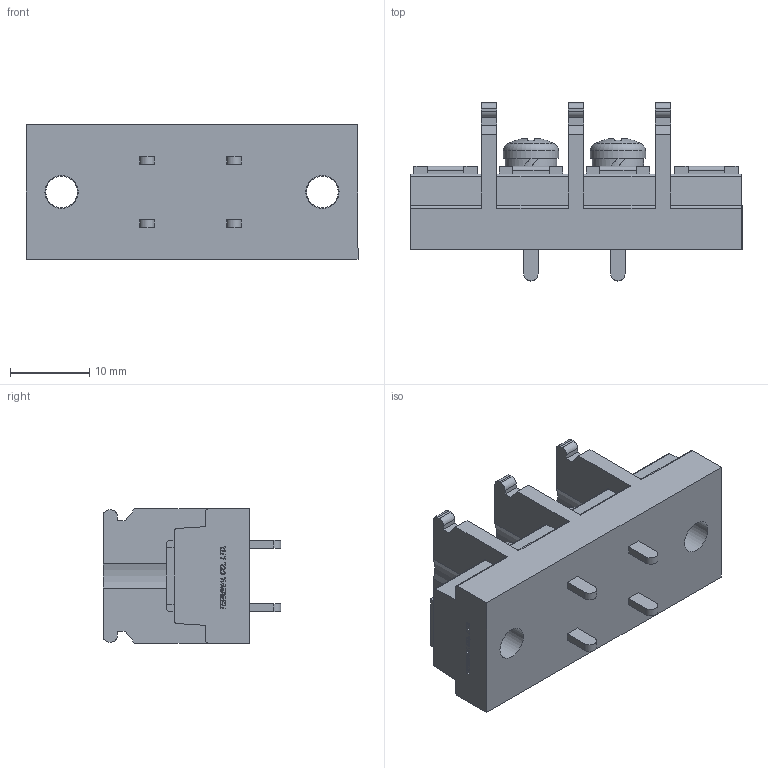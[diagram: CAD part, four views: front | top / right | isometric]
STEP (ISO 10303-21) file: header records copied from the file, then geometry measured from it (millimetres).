
FILE_DESCRIPTION(/* description */ ('Alibre Inc.'),/* implementation_level */ '2;1');
FILE_NAME(/* name */ 'export0',/* time_stamp */ '2015-10-19T19:47:00+09:00',/* author */ (''),/* organization */ (''),/* preprocessor_version */ 'ST-DEVELOPER v14',/* originating_system */ 'Alibre',/* authorisation */ '');
FILE_SCHEMA (('CONFIG_CONTROL_DESIGN'));
Length unit declared in the file: centimetre
Products named in the file (1): ID_1
Bounding box: 42 x 22.5 x 17 mm (x, y, z)
Volume: 7147.7 mm3; surface area: 4291.2 mm2
Topology: 1 solids, 1 shells, 604 faces, 1646 edges, 1096 vertices
Faces by surface type: plane 430, bspline 104, cylinder 56, cone 8, torus 4, sphere 2
Full cylindrical faces by diameter (mm): 4 x4, 4.2 x2, 6.5 x2, 7 x2
Entity records: 18527 total; most frequent: CARTESIAN_POINT 4300, ORIENTED_EDGE 3252, DIRECTION 2125, EDGE_CURVE 1626, VECTOR 1227, LINE 1227, VERTEX_POINT 1088, EDGE_LOOP 676
